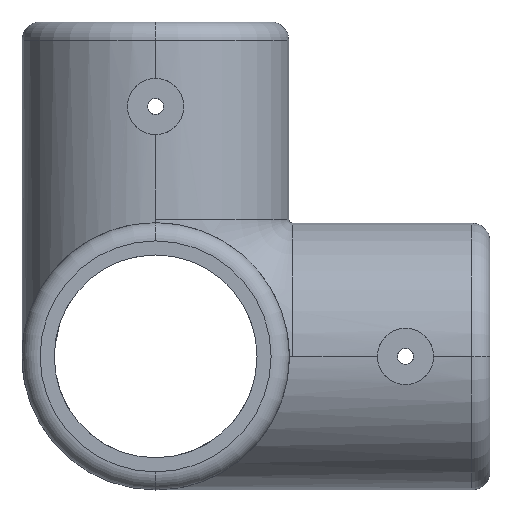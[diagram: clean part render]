
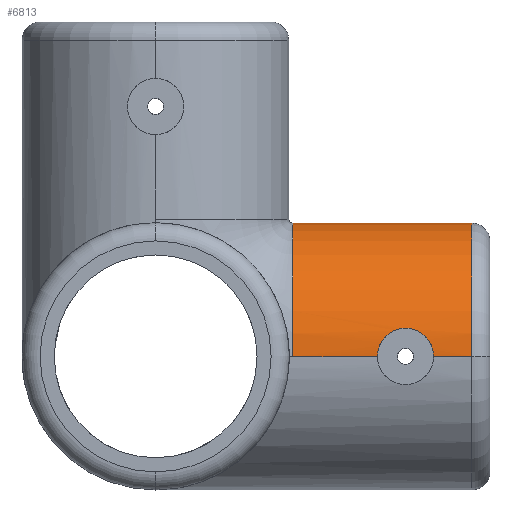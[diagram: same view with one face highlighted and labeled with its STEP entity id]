
A CAD part, front view. The second image highlights one B-rep face of the part: STEP entity #6813.
In plain terms, the highlighted cylindrical face has radius 33.15 mm (diameter 66.3 mm), a partial arc.
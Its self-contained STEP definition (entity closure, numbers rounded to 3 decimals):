
#22 = CARTESIAN_POINT ( 'NONE',  ( 78.6, 0., -0.05 ) ) ;
#24 = CARTESIAN_POINT ( 'NONE',  ( 66.196, -32.651, 5.681 ) ) ;
#240 = CARTESIAN_POINT ( 'NONE',  ( 59.834, -32.471, 6.627 ) ) ;
#312 = FACE_OUTER_BOUND ( 'NONE', #7273, .T. ) ;
#328 = CARTESIAN_POINT ( 'NONE',  ( 56.82, -32.822, 4.602 ) ) ;
#479 = LINE ( 'NONE', #6521, #7779 ) ;
#480 = VERTEX_POINT ( 'NONE', #6138 ) ;
#593 = CARTESIAN_POINT ( 'NONE',  ( 68.752, -33.074, 2.226 ) ) ;
#674 = CARTESIAN_POINT ( 'NONE',  ( 65.007, -32.522, 6.372 ) ) ;
#696 = CARTESIAN_POINT ( 'NONE',  ( 62.1, -32.392, 7. ) ) ;
#754 = VERTEX_POINT ( 'NONE', #6842 ) ;
#1260 = CARTESIAN_POINT ( 'NONE',  ( 62.1, -32.392, 7. ) ) ;
#1503 = CARTESIAN_POINT ( 'NONE',  ( 69.1, -33.15, -0.05 ) ) ;
#1573 = CYLINDRICAL_SURFACE ( 'NONE', #8268, 33.15 ) ;
#1585 = CARTESIAN_POINT ( 'NONE',  ( 57.457, -32.724, 5.259 ) ) ;
#1630 = CARTESIAN_POINT ( 'NONE',  ( 55.27, -33.112, 1.551 ) ) ;
#1677 = CARTESIAN_POINT ( 'NONE',  ( 56.01, -32.964, 3.482 ) ) ;
#1766 = CARTESIAN_POINT ( 'NONE',  ( 55.534, -33.057, 2.438 ) ) ;
#1881 = VERTEX_POINT ( 'NONE', #696 ) ;
#1930 = EDGE_CURVE ( 'NONE', #7702, #754, #479, .T. ) ;
#1934 = CARTESIAN_POINT ( 'NONE',  ( 65.217, -32.542, 6.272 ) ) ;
#1978 = CARTESIAN_POINT ( 'NONE',  ( 69.016, -33.131, 1.108 ) ) ;
#2148 = VERTEX_POINT ( 'NONE', #8189 ) ;
#2224 = DIRECTION ( 'NONE',  ( 0., 0., -1. ) ) ;
#2282 = CARTESIAN_POINT ( 'NONE',  ( 59.618, -32.487, 6.549 ) ) ;
#2325 = CARTESIAN_POINT ( 'NONE',  ( 57.81, -32.675, 5.55 ) ) ;
#2372 = CARTESIAN_POINT ( 'NONE',  ( 62.1, -32.392, 7. ) ) ;
#2396 = EDGE_CURVE ( 'NONE', #2148, #8424, #6788, .T. ) ;
#2630 = CARTESIAN_POINT ( 'NONE',  ( 66.905, -32.749, 5.096 ) ) ;
#2671 = CARTESIAN_POINT ( 'NONE',  ( 66.379, -32.675, 5.544 ) ) ;
#2718 = DIRECTION ( 'NONE',  ( -1., 0., 0. ) ) ;
#2749 = EDGE_CURVE ( 'NONE', #480, #754, #4655, .T. ) ;
#2961 = CARTESIAN_POINT ( 'NONE',  ( 34.1, 0., -0.05 ) ) ;
#2973 = CARTESIAN_POINT ( 'NONE',  ( 56.528, -32.871, 4.244 ) ) ;
#3176 = ORIENTED_EDGE ( 'NONE', *, *, #2749, .F. ) ;
#3238 = CARTESIAN_POINT ( 'NONE',  ( 69.101, -33.15, 0.183 ) ) ;
#3320 = CARTESIAN_POINT ( 'NONE',  ( 68.405, -33.005, 3.076 ) ) ;
#3673 = EDGE_CURVE ( 'NONE', #1881, #8424, #6339, .T. ) ;
#3722 = CARTESIAN_POINT ( 'NONE',  ( 56.974, -32.798, 4.772 ) ) ;
#3725 = EDGE_CURVE ( 'NONE', #5618, #480, #5663, .T. ) ;
#3810 = CARTESIAN_POINT ( 'NONE',  ( 69.049, -33.138, 0.877 ) ) ;
#3835 = DIRECTION ( 'NONE',  ( -1., 0., 0. ) ) ;
#3903 = CARTESIAN_POINT ( 'NONE',  ( 62.56, -32.392, 7. ) ) ;
#4114 = CIRCLE ( 'NONE', #8416, 33.15 ) ;
#4250 = CARTESIAN_POINT ( 'NONE',  ( 55.1, -33.15, -0.05 ) ) ;
#4292 = CARTESIAN_POINT ( 'NONE',  ( 56.391, -32.895, 4.057 ) ) ;
#4380 = CARTESIAN_POINT ( 'NONE',  ( 58.984, -32.54, 6.285 ) ) ;
#4511 = CARTESIAN_POINT ( 'NONE',  ( 65.817, -32.605, 5.936 ) ) ;
#4581 = VECTOR ( 'NONE', #2718, 1000. ) ;
#4597 = CARTESIAN_POINT ( 'NONE',  ( 65.621, -32.583, 6.054 ) ) ;
#4655 = CIRCLE ( 'NONE', #5757, 33.15 ) ;
#5065 = CARTESIAN_POINT ( 'NONE',  ( 60.502, -32.431, 6.819 ) ) ;
#5168 = CARTESIAN_POINT ( 'NONE',  ( 78.6, -0.1, 33.1 ) ) ;
#5281 = CARTESIAN_POINT ( 'NONE',  ( 67.68, -32.872, 4.251 ) ) ;
#5582 = CARTESIAN_POINT ( 'NONE',  ( 55.796, -33.005, 3.078 ) ) ;
#5618 = VERTEX_POINT ( 'NONE', #7812 ) ;
#5655 = DIRECTION ( 'NONE',  ( 1., 0., 0. ) ) ;
#5663 = LINE ( 'NONE', #7675, #7963 ) ;
#5669 = CARTESIAN_POINT ( 'NONE',  ( 55.457, -33.073, 2.218 ) ) ;
#5757 = AXIS2_PLACEMENT_3D ( 'NONE', #8272, #8363, #2224 ) ;
#5889 = CARTESIAN_POINT ( 'NONE',  ( 63.027, -32.402, 6.954 ) ) ;
#5932 = CARTESIAN_POINT ( 'NONE',  ( 64.367, -32.469, 6.639 ) ) ;
#5974 = CARTESIAN_POINT ( 'NONE',  ( 69.1, -33.15, -0.05 ) ) ;
#6117 = EDGE_CURVE ( 'NONE', #5618, #1881, #7545, .T. ) ;
#6130 = DIRECTION ( 'NONE',  ( 0., 0., -1. ) ) ;
#6138 = CARTESIAN_POINT ( 'NONE',  ( 34.1, -33.15, -0.05 ) ) ;
#6215 = ORIENTED_EDGE ( 'NONE', *, *, #1930, .T. ) ;
#6269 = CARTESIAN_POINT ( 'NONE',  ( 55.14, -33.14, 0.875 ) ) ;
#6309 = ORIENTED_EDGE ( 'NONE', *, *, #7513, .F. ) ;
#6339 = B_SPLINE_CURVE_WITH_KNOTS ( 'NONE', 3,
 ( #1260, #3903, #5889, #8548, #5932, #674, #1934, #4597, #4511, #24, #2671, #8596, #2630, #6492, #5281, #7936, #3320, #593, #7771, #1978, #3810, #6451, #3238, #5974 ),
 .UNSPECIFIED., .F., .F.,
 ( 4, 2, 2, 2, 2, 2, 2, 2, 2, 2, 2, 4 ),
 ( 0.033, 0.034, 0.036, 0.036, 0.037, 0.038, 0.038, 0.04, 0.041, 0.043, 0.043, 0.044 ),
 .UNSPECIFIED. ) ;
#6363 = CARTESIAN_POINT ( 'NONE',  ( 58.578, -32.582, 6.067 ) ) ;
#6451 = CARTESIAN_POINT ( 'NONE',  ( 69.092, -33.148, 0.415 ) ) ;
#6492 = CARTESIAN_POINT ( 'NONE',  ( 67.392, -32.823, 4.606 ) ) ;
#6521 = CARTESIAN_POINT ( 'NONE',  ( 34.1, -0.1, 33.1 ) ) ;
#6743 = CARTESIAN_POINT ( 'NONE',  ( 34.1, -33.15, -0.05 ) ) ;
#6788 = LINE ( 'NONE', #6743, #4581 ) ;
#6813 = ADVANCED_FACE ( 'NONE', ( #312 ), #1573, .T. ) ;
#6842 = CARTESIAN_POINT ( 'NONE',  ( 34.1, -0.1, 33.1 ) ) ;
#6933 = CARTESIAN_POINT ( 'NONE',  ( 60.275, -32.443, 6.762 ) ) ;
#7105 = DIRECTION ( 'NONE',  ( -1., 0., 0. ) ) ;
#7273 = EDGE_LOOP ( 'NONE', ( #8466, #6309, #6215, #3176, #7795, #8528, #8019 ) ) ;
#7281 = DIRECTION ( 'NONE',  ( 1., 0., 0. ) ) ;
#7513 = EDGE_CURVE ( 'NONE', #7702, #2148, #4114, .T. ) ;
#7545 = B_SPLINE_CURVE_WITH_KNOTS ( 'NONE', 3,
 ( #4250, #8245, #6269, #1630, #7547, #5669, #1766, #5582, #1677, #4292, #2973, #328, #3722, #1585, #2325, #6363, #4380, #2282, #240, #6933, #5065, #7638, #8334, #2372 ),
 .UNSPECIFIED., .F., .F.,
 ( 4, 2, 2, 2, 2, 2, 2, 2, 2, 2, 2, 4 ),
 ( 0.022, 0.023, 0.024, 0.025, 0.026, 0.027, 0.027, 0.029, 0.03, 0.031, 0.031, 0.033 ),
 .UNSPECIFIED. ) ;
#7547 = CARTESIAN_POINT ( 'NONE',  ( 55.325, -33.1, 1.775 ) ) ;
#7638 = CARTESIAN_POINT ( 'NONE',  ( 61.182, -32.402, 6.955 ) ) ;
#7675 = CARTESIAN_POINT ( 'NONE',  ( 34.1, -33.15, -0.05 ) ) ;
#7702 = VERTEX_POINT ( 'NONE', #5168 ) ;
#7771 = CARTESIAN_POINT ( 'NONE',  ( 68.884, -33.102, 1.788 ) ) ;
#7779 = VECTOR ( 'NONE', #3835, 1000. ) ;
#7795 = ORIENTED_EDGE ( 'NONE', *, *, #3725, .F. ) ;
#7812 = CARTESIAN_POINT ( 'NONE',  ( 55.1, -33.15, -0.05 ) ) ;
#7850 = DIRECTION ( 'NONE',  ( 0., 0., 1. ) ) ;
#7936 = CARTESIAN_POINT ( 'NONE',  ( 68.186, -32.963, 3.489 ) ) ;
#7963 = VECTOR ( 'NONE', #7105, 1000. ) ;
#8019 = ORIENTED_EDGE ( 'NONE', *, *, #3673, .T. ) ;
#8189 = CARTESIAN_POINT ( 'NONE',  ( 78.6, -33.15, -0.05 ) ) ;
#8245 = CARTESIAN_POINT ( 'NONE',  ( 55.097, -33.15, 0.416 ) ) ;
#8268 = AXIS2_PLACEMENT_3D ( 'NONE', #2961, #5655, #6130 ) ;
#8272 = CARTESIAN_POINT ( 'NONE',  ( 34.1, 0., -0.05 ) ) ;
#8334 = CARTESIAN_POINT ( 'NONE',  ( 61.64, -32.392, 7. ) ) ;
#8363 = DIRECTION ( 'NONE',  ( -1., 0., 0. ) ) ;
#8416 = AXIS2_PLACEMENT_3D ( 'NONE', #22, #7281, #7850 ) ;
#8424 = VERTEX_POINT ( 'NONE', #1503 ) ;
#8466 = ORIENTED_EDGE ( 'NONE', *, *, #2396, .F. ) ;
#8528 = ORIENTED_EDGE ( 'NONE', *, *, #6117, .T. ) ;
#8548 = CARTESIAN_POINT ( 'NONE',  ( 63.929, -32.44, 6.773 ) ) ;
#8596 = CARTESIAN_POINT ( 'NONE',  ( 66.733, -32.724, 5.252 ) ) ;
